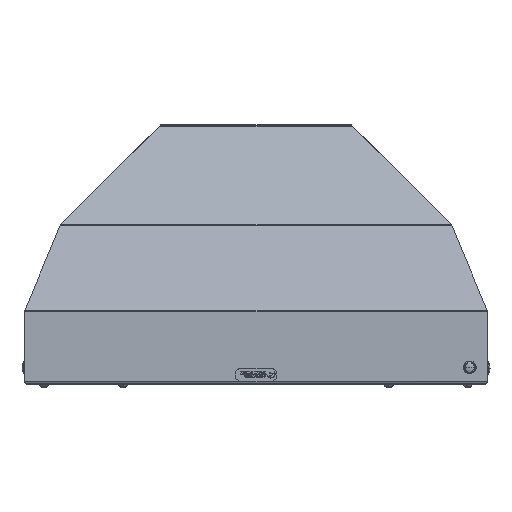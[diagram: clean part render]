
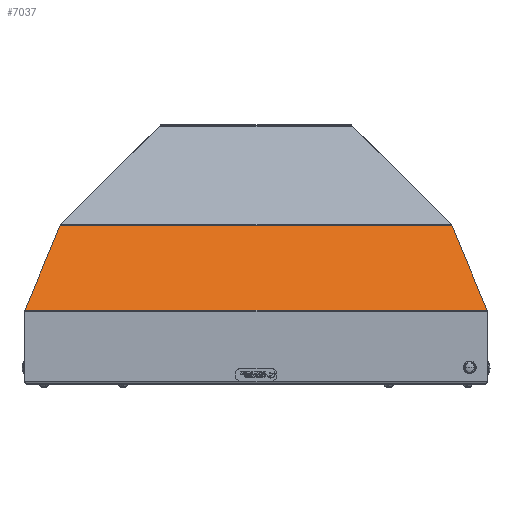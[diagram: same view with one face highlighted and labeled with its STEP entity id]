
A CAD part, top view. The second image highlights one B-rep face of the part: STEP entity #7037.
In plain terms, the highlighted planar face has unit normal (0, 0.383, 0.924) as drawn and (0.924, 0.383, 0) by its records, which use the part's own axes.
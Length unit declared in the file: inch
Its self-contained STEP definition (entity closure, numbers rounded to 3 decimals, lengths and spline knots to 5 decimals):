
#61 = VERTEX_POINT ( 'NONE', #10739 ) ;
#120 = EDGE_CURVE ( 'NONE', #61, #18622, #38886, .T. ) ;
#183 = VERTEX_POINT ( 'NONE', #37137 ) ;
#1085 = VECTOR ( 'NONE', #30637, 39.37008 ) ;
#2537 = CARTESIAN_POINT ( 'NONE',  ( 10.44201, 3.3072, -20.9 ) ) ;
#2826 = LINE ( 'NONE', #3281, #16567 ) ;
#3281 = CARTESIAN_POINT ( 'NONE',  ( 9.05641, 6.65232, -19.50641 ) ) ;
#3584 = VERTEX_POINT ( 'NONE', #40298 ) ;
#3807 = LINE ( 'NONE', #2537, #1085 ) ;
#4184 = EDGE_LOOP ( 'NONE', ( #6314, #9130, #6681, #33002 ) ) ;
#4856 = EDGE_CURVE ( 'NONE', #61, #183, #2826, .T. ) ;
#6314 = ORIENTED_EDGE ( 'NONE', *, *, #4856, .F. ) ;
#6681 = ORIENTED_EDGE ( 'NONE', *, *, #23403, .F. ) ;
#6738 = VECTOR ( 'NONE', #45355, 39.37008 ) ;
#7037 = ADVANCED_FACE ( 'NONE', ( #37879 ), #40098, .T. ) ;
#8178 = DIRECTION ( 'NONE',  ( 0.924, 0.383, 0. ) ) ;
#9130 = ORIENTED_EDGE ( 'NONE', *, *, #120, .T. ) ;
#10739 = CARTESIAN_POINT ( 'NONE',  ( 8.85233, 7.14502, -19.30233 ) ) ;
#11175 = LINE ( 'NONE', #24187, #6738 ) ;
#11866 = CARTESIAN_POINT ( 'NONE',  ( 8.85233, 7.14502, -20.9 ) ) ;
#11968 = VECTOR ( 'NONE', #28106, 39.37008 ) ;
#16567 = VECTOR ( 'NONE', #44734, 39.37008 ) ;
#16678 = AXIS2_PLACEMENT_3D ( 'NONE', #11866, #8178, #36457 ) ;
#18622 = VERTEX_POINT ( 'NONE', #40971 ) ;
#23403 = EDGE_CURVE ( 'NONE', #3584, #18622, #11175, .T. ) ;
#24187 = CARTESIAN_POINT ( 'NONE',  ( 6.38666, 13.09768, -4.06334 ) ) ;
#24591 = CARTESIAN_POINT ( 'NONE',  ( 8.85233, 7.14502, -20.9 ) ) ;
#28106 = DIRECTION ( 'NONE',  ( 0., 0., 1. ) ) ;
#28169 = EDGE_CURVE ( 'NONE', #183, #3584, #3807, .T. ) ;
#30637 = DIRECTION ( 'NONE',  ( 0., 0., 1. ) ) ;
#33002 = ORIENTED_EDGE ( 'NONE', *, *, #28169, .F. ) ;
#36457 = DIRECTION ( 'NONE',  ( -0.383, 0.924, 0. ) ) ;
#37137 = CARTESIAN_POINT ( 'NONE',  ( 10.44201, 3.3072, -20.89201 ) ) ;
#37879 = FACE_OUTER_BOUND ( 'NONE', #4184, .T. ) ;
#38886 = LINE ( 'NONE', #24591, #11968 ) ;
#40098 = PLANE ( 'NONE',  #16678 ) ;
#40298 = CARTESIAN_POINT ( 'NONE',  ( 10.44201, 3.3072, -0.00799 ) ) ;
#40971 = CARTESIAN_POINT ( 'NONE',  ( 8.85233, 7.14502, -1.59767 ) ) ;
#44734 = DIRECTION ( 'NONE',  ( 0.357, -0.863, -0.357 ) ) ;
#45355 = DIRECTION ( 'NONE',  ( -0.357, 0.863, -0.357 ) ) ;
